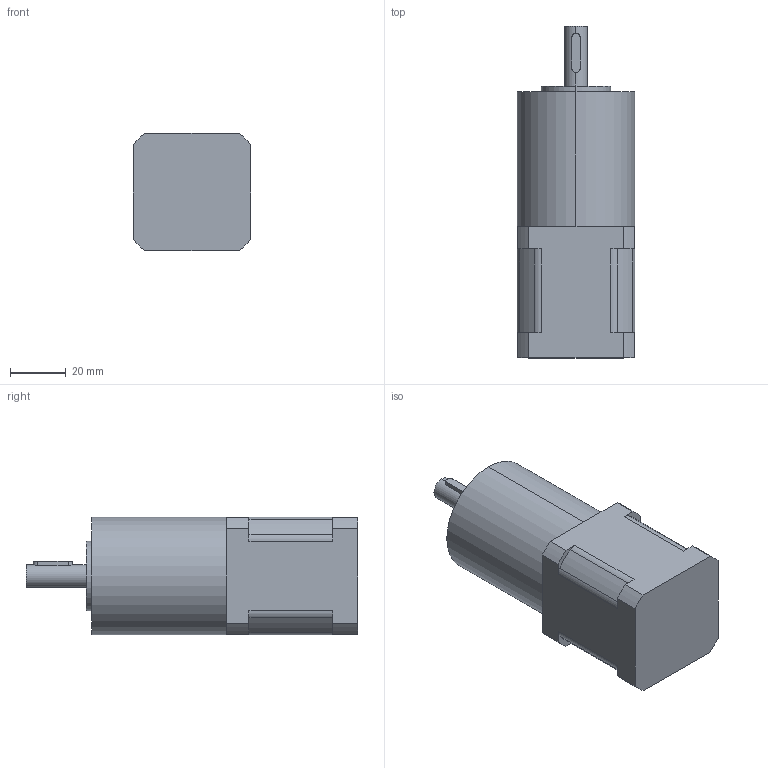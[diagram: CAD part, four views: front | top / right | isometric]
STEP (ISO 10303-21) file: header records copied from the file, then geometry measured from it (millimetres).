
FILE_DESCRIPTION (( 'STEP AP203' ), '1' );
FILE_NAME ('42CM06-RD20.STEP', '2021-04-23T09:28:36', ( 'Owner' ), ( 'Organization' ), 'SwSTEP 2.0', 'SolidWorks 2018', '' );
FILE_SCHEMA (( 'CONFIG_CONTROL_DESIGN' ));
Length unit declared in the file: millimetre
Products named in the file (1): 42CM06-RD20
Bounding box: 42 x 118.8 x 42 mm (x, y, z)
Volume: 148667.2 mm3; surface area: 17922.9 mm2
Topology: 1 solids, 1 shells, 51 faces, 135 edges, 88 vertices
Faces by surface type: cylinder 28, plane 23
Entity records: 1710 total; most frequent: CARTESIAN_POINT 319, DIRECTION 291, ORIENTED_EDGE 270, EDGE_CURVE 135, AXIS2_PLACEMENT_3D 108, VERTEX_POINT 88, LINE 75, VECTOR 75
